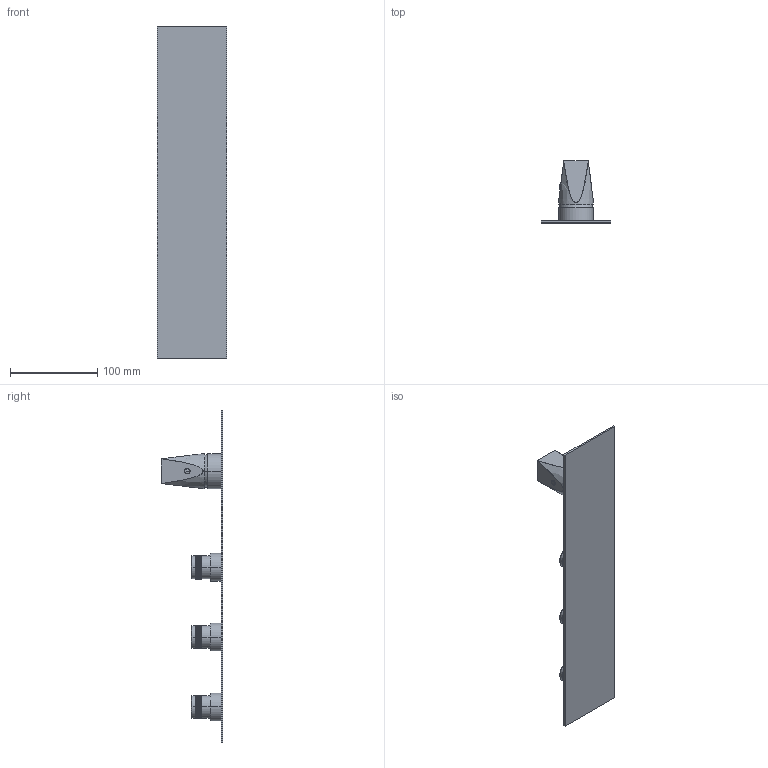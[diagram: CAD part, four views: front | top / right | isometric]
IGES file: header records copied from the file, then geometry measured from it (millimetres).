
Start section:  PTC IGES file: 49000V3.igs
Global section: file name: 49000V3.igs; native system: Creo Parametric by PTC Inc.; preprocessor: 2022014; author: carloff; organization: Unknown; date: 20230921.102623; units: millimetre
Bounding box: 80 x 70.7 x 380 mm (x, y, z)
Surface area: 80880.8 mm2 (no closed solid volume)
Topology: 0 solids, 0 shells, 4949 faces, 24662 edges, 24654 vertices
Faces by surface type: bspline 3868, revolution 1081
